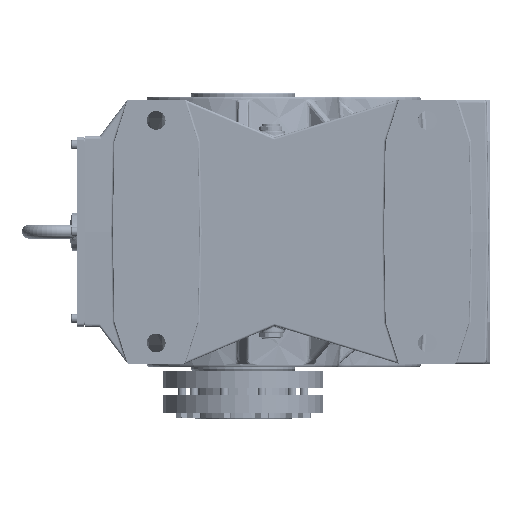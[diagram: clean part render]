
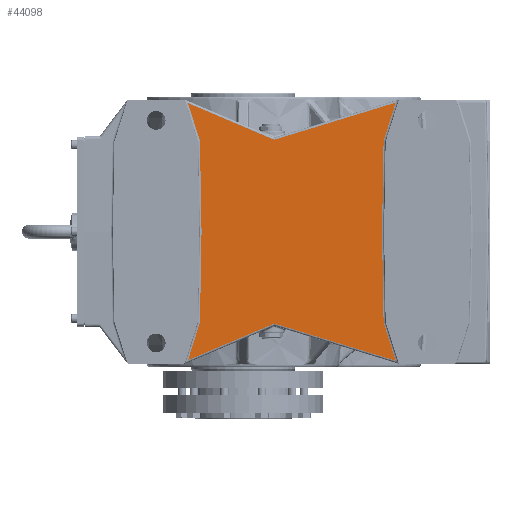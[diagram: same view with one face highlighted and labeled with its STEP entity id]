
A CAD part, left-side view. The second image highlights one B-rep face of the part: STEP entity #44098.
In plain terms, the highlighted planar face has unit normal (-1, 0, 0).
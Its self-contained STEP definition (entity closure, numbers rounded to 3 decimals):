
#35615=CARTESIAN_POINT('',(-225.0,79.172,-184.692));
#35616=VERTEX_POINT('',#35615);
#35624=CARTESIAN_POINT('',(-225.0,62.36,-131.6));
#35625=VERTEX_POINT('',#35624);
#35626=CARTESIAN_POINT('',(-225.0,79.172,-184.692));
#35627=DIRECTION('',(0.0,-0.302,0.953));
#35628=VECTOR('',#35627,55.69);
#35629=LINE('',#35626,#35628);
#35630=EDGE_CURVE('',#35616,#35625,#35629,.T.);
#41761=CARTESIAN_POINT('',(-225.,-42.78,-132.926));
#41762=VERTEX_POINT('',#41761);
#41770=CARTESIAN_POINT('',(-225.,-42.78,-132.926));
#41771=DIRECTION('',(0.,0.921,-0.391));
#41772=VECTOR('',#41771,132.484);
#41773=LINE('',#41770,#41772);
#41774=EDGE_CURVE('',#41762,#35616,#41773,.T.);
#41786=CARTESIAN_POINT('',(-225.,-46.878,-132.711));
#41787=VERTEX_POINT('',#41786);
#41795=CARTESIAN_POINT('',(-225.,-45.124,-138.449));
#41796=DIRECTION('',(-1.0,0.,0.));
#41797=DIRECTION('',(0.,0.052,0.999));
#41798=AXIS2_PLACEMENT_3D('',#41795,#41796,#41797);
#41799=CIRCLE('',#41798,6.);
#41800=EDGE_CURVE('',#41787,#41762,#41799,.T.);
#41820=CARTESIAN_POINT('',(-225.,-219.416,-185.461));
#41821=VERTEX_POINT('',#41820);
#41829=CARTESIAN_POINT('',(-225.,-219.416,-185.461));
#41830=DIRECTION('',(0.,0.956,0.292));
#41831=VECTOR('',#41830,180.421);
#41832=LINE('',#41829,#41831);
#41833=EDGE_CURVE('',#41821,#41787,#41832,.T.);
#42988=CARTESIAN_POINT('',(-225.,-202.36,-131.6));
#42989=VERTEX_POINT('',#42988);
#42997=CARTESIAN_POINT('',(-225.,-202.36,-131.6));
#42998=DIRECTION('',(0.0,-0.302,-0.953));
#42999=VECTOR('',#42998,56.498);
#43000=LINE('',#42997,#42999);
#43001=EDGE_CURVE('',#42989,#41821,#43000,.T.);
#43730=CARTESIAN_POINT('',(-225.0,79.172,184.692));
#43731=VERTEX_POINT('',#43730);
#43739=CARTESIAN_POINT('',(-225.,-42.78,132.926));
#43740=VERTEX_POINT('',#43739);
#43741=CARTESIAN_POINT('',(-225.0,79.172,184.692));
#43742=DIRECTION('',(0.,-0.921,-0.391));
#43743=VECTOR('',#43742,132.484);
#43744=LINE('',#43741,#43743);
#43745=EDGE_CURVE('',#43731,#43740,#43744,.T.);
#43802=CARTESIAN_POINT('',(-225.,-46.878,132.711));
#43803=VERTEX_POINT('',#43802);
#43821=CARTESIAN_POINT('',(-225.,-45.124,138.449));
#43822=DIRECTION('',(-1.0,0.,0.));
#43823=DIRECTION('',(0.,0.052,-0.999));
#43824=AXIS2_PLACEMENT_3D('',#43821,#43822,#43823);
#43825=CIRCLE('',#43824,6.);
#43826=EDGE_CURVE('',#43740,#43803,#43825,.T.);
#43836=CARTESIAN_POINT('',(-225.,-219.416,185.461));
#43837=VERTEX_POINT('',#43836);
#43854=CARTESIAN_POINT('',(-225.,-46.878,132.711));
#43855=DIRECTION('',(0.,-0.956,0.292));
#43856=VECTOR('',#43855,180.421);
#43857=LINE('',#43854,#43856);
#43858=EDGE_CURVE('',#43803,#43837,#43857,.T.);
#44003=CARTESIAN_POINT('',(-225.,-350.0,0.0));
#44004=DIRECTION('',(-1.0,0.0,0.0));
#44005=DIRECTION('',(0.0,0.0,1.0));
#44006=AXIS2_PLACEMENT_3D('',#44003,#44004,#44005);
#44007=PLANE('',#44006);
#44008=ORIENTED_EDGE('',*,*,#41833,.F.);
#44009=ORIENTED_EDGE('',*,*,#43001,.F.);
#44010=CARTESIAN_POINT('',(-225.,-201.988,-129.324));
#44011=VERTEX_POINT('',#44010);
#44012=CARTESIAN_POINT('',(-225.,-209.987,-129.185));
#44013=DIRECTION('',(-1.0,0.,0.));
#44014=DIRECTION('',(0.,0.987,-0.161));
#44015=AXIS2_PLACEMENT_3D('',#44012,#44013,#44014);
#44016=CIRCLE('',#44015,8.);
#44017=EDGE_CURVE('',#44011,#42989,#44016,.T.);
#44018=ORIENTED_EDGE('',*,*,#44017,.F.);
#44019=CARTESIAN_POINT('',(-225.,-199.73,0.));
#44020=VERTEX_POINT('',#44019);
#44021=CARTESIAN_POINT('',(-225.,-199.73,0.));
#44022=DIRECTION('',(0.0,-0.017,-1.));
#44023=VECTOR('',#44022,129.344);
#44024=LINE('',#44021,#44023);
#44025=EDGE_CURVE('',#44020,#44011,#44024,.T.);
#44026=ORIENTED_EDGE('',*,*,#44025,.F.);
#44027=CARTESIAN_POINT('',(-225.,-201.988,129.324));
#44028=VERTEX_POINT('',#44027);
#44029=CARTESIAN_POINT('',(-225.,-201.988,129.324));
#44030=DIRECTION('',(0.0,0.017,-1.));
#44031=VECTOR('',#44030,129.344);
#44032=LINE('',#44029,#44031);
#44033=EDGE_CURVE('',#44028,#44020,#44032,.T.);
#44034=ORIENTED_EDGE('',*,*,#44033,.F.);
#44035=CARTESIAN_POINT('',(-225.,-202.36,131.6));
#44036=VERTEX_POINT('',#44035);
#44037=CARTESIAN_POINT('',(-225.,-209.987,129.185));
#44038=DIRECTION('',(-1.0,0.,0.));
#44039=DIRECTION('',(0.,0.987,0.161));
#44040=AXIS2_PLACEMENT_3D('',#44037,#44038,#44039);
#44041=CIRCLE('',#44040,8.);
#44042=EDGE_CURVE('',#44036,#44028,#44041,.T.);
#44043=ORIENTED_EDGE('',*,*,#44042,.F.);
#44044=CARTESIAN_POINT('',(-225.,-219.416,185.461));
#44045=DIRECTION('',(0.0,0.302,-0.953));
#44046=VECTOR('',#44045,56.498);
#44047=LINE('',#44044,#44046);
#44048=EDGE_CURVE('',#43837,#44036,#44047,.T.);
#44049=ORIENTED_EDGE('',*,*,#44048,.F.);
#44050=ORIENTED_EDGE('',*,*,#43858,.F.);
#44051=ORIENTED_EDGE('',*,*,#43826,.F.);
#44052=ORIENTED_EDGE('',*,*,#43745,.F.);
#44053=CARTESIAN_POINT('',(-225.0,62.36,131.6));
#44054=VERTEX_POINT('',#44053);
#44055=CARTESIAN_POINT('',(-225.0,62.36,131.6));
#44056=DIRECTION('',(0.0,0.302,0.953));
#44057=VECTOR('',#44056,55.69);
#44058=LINE('',#44055,#44057);
#44059=EDGE_CURVE('',#44054,#43731,#44058,.T.);
#44060=ORIENTED_EDGE('',*,*,#44059,.F.);
#44061=CARTESIAN_POINT('',(-225.0,61.988,129.324));
#44062=VERTEX_POINT('',#44061);
#44063=CARTESIAN_POINT('',(-225.0,69.987,129.185));
#44064=DIRECTION('',(-1.0,0.,0.));
#44065=DIRECTION('',(0.,-0.987,0.161));
#44066=AXIS2_PLACEMENT_3D('',#44063,#44064,#44065);
#44067=CIRCLE('',#44066,8.0);
#44068=EDGE_CURVE('',#44062,#44054,#44067,.T.);
#44069=ORIENTED_EDGE('',*,*,#44068,.F.);
#44070=CARTESIAN_POINT('',(-225.0,59.73,0.));
#44071=VERTEX_POINT('',#44070);
#44072=CARTESIAN_POINT('',(-225.0,59.73,0.));
#44073=DIRECTION('',(0.0,0.017,1.));
#44074=VECTOR('',#44073,129.344);
#44075=LINE('',#44072,#44074);
#44076=EDGE_CURVE('',#44071,#44062,#44075,.T.);
#44077=ORIENTED_EDGE('',*,*,#44076,.F.);
#44078=CARTESIAN_POINT('',(-225.0,61.988,-129.324));
#44079=VERTEX_POINT('',#44078);
#44080=CARTESIAN_POINT('',(-225.0,61.988,-129.324));
#44081=DIRECTION('',(0.0,-0.017,1.));
#44082=VECTOR('',#44081,129.344);
#44083=LINE('',#44080,#44082);
#44084=EDGE_CURVE('',#44079,#44071,#44083,.T.);
#44085=ORIENTED_EDGE('',*,*,#44084,.F.);
#44086=CARTESIAN_POINT('',(-225.0,69.987,-129.185));
#44087=DIRECTION('',(-1.0,0.,0.));
#44088=DIRECTION('',(0.,-0.987,-0.161));
#44089=AXIS2_PLACEMENT_3D('',#44086,#44087,#44088);
#44090=CIRCLE('',#44089,8.0);
#44091=EDGE_CURVE('',#35625,#44079,#44090,.T.);
#44092=ORIENTED_EDGE('',*,*,#44091,.F.);
#44093=ORIENTED_EDGE('',*,*,#35630,.F.);
#44094=ORIENTED_EDGE('',*,*,#41774,.F.);
#44095=ORIENTED_EDGE('',*,*,#41800,.F.);
#44096=EDGE_LOOP('',(#44008,#44009,#44018,#44026,#44034,#44043,#44049,#44050,#44051,#44052,#44060,#44069,#44077,#44085,#44092,#44093,#44094,#44095));
#44097=FACE_OUTER_BOUND('',#44096,.T.);
#44098=ADVANCED_FACE('',(#44097),#44007,.T.);
